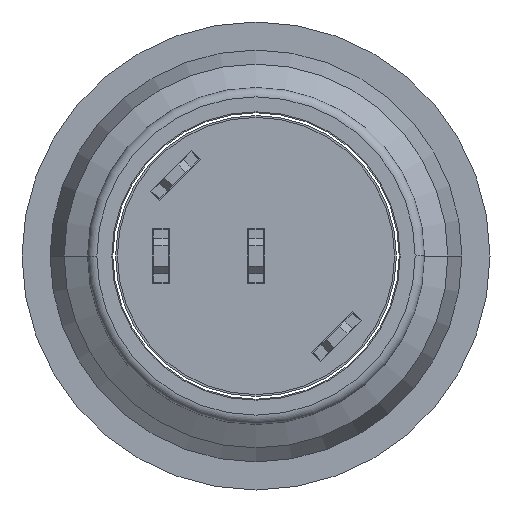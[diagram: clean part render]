
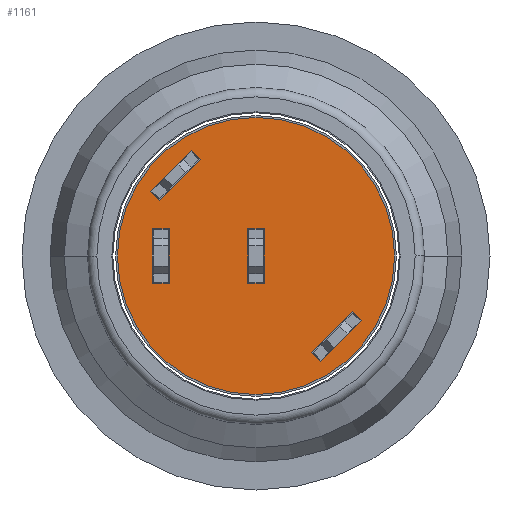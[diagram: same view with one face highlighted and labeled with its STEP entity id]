
A CAD part, front view. The second image highlights one B-rep face of the part: STEP entity #1161.
In plain terms, the highlighted planar face has unit normal (0, -1, 0).
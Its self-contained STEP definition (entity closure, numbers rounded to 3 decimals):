
#968=CARTESIAN_POINT('',(12.5,-15.98,-12.5));
#969=DIRECTION('',(0.,-1.,0.));
#970=DIRECTION('',(-1.,0.,0.));
#971=AXIS2_PLACEMENT_3D('',#968,#969,#970);
#973=CARTESIAN_POINT('',(12.5,-15.98,-12.5));
#974=DIRECTION('',(0.,1.,0.));
#975=DIRECTION('',(-1.,0.,0.));
#976=AXIS2_PLACEMENT_3D('',#973,#974,#975);
#978=DIRECTION('',(-0.707,0.,0.707));
#979=VECTOR('',#978,0.7);
#980=CARTESIAN_POINT('',(18.157,-15.98,-15.965));
#981=LINE('',#980,#979);
#982=DIRECTION('',(-0.707,0.,-0.707));
#983=VECTOR('',#982,3.1);
#984=CARTESIAN_POINT('',(17.662,-15.98,-15.47));
#985=LINE('',#984,#983);
#986=DIRECTION('',(0.707,0.,-0.707));
#987=VECTOR('',#986,0.7);
#988=CARTESIAN_POINT('',(15.47,-15.98,-17.662));
#989=LINE('',#988,#987);
#990=DIRECTION('',(0.707,0.,0.707));
#991=VECTOR('',#990,3.1);
#992=CARTESIAN_POINT('',(15.965,-15.98,-18.157));
#993=LINE('',#992,#991);
#994=DIRECTION('',(-0.707,0.,0.707));
#995=VECTOR('',#994,0.7);
#996=CARTESIAN_POINT('',(9.53,-15.98,-7.338));
#997=LINE('',#996,#995);
#998=DIRECTION('',(-0.707,0.,-0.707));
#999=VECTOR('',#998,3.1);
#1000=CARTESIAN_POINT('',(9.035,-15.98,-6.843));
#1001=LINE('',#1000,#999);
#1002=DIRECTION('',(0.707,0.,-0.707));
#1003=VECTOR('',#1002,0.7);
#1004=CARTESIAN_POINT('',(6.843,-15.98,-9.035));
#1005=LINE('',#1004,#1003);
#1006=DIRECTION('',(0.707,0.,0.707));
#1007=VECTOR('',#1006,3.1);
#1008=CARTESIAN_POINT('',(7.338,-15.98,-9.53));
#1009=LINE('',#1008,#1007);
#1010=DIRECTION('',(0.,0.,1.));
#1011=VECTOR('',#1010,2.9);
#1012=CARTESIAN_POINT('',(12.95,-15.98,-13.95));
#1013=LINE('',#1012,#1011);
#1014=DIRECTION('',(-1.,0.,0.));
#1015=VECTOR('',#1014,0.9);
#1016=CARTESIAN_POINT('',(12.95,-15.98,-11.05));
#1017=LINE('',#1016,#1015);
#1018=DIRECTION('',(0.,0.,-1.));
#1019=VECTOR('',#1018,2.9);
#1020=CARTESIAN_POINT('',(12.05,-15.98,-11.05));
#1021=LINE('',#1020,#1019);
#1022=DIRECTION('',(1.,0.,0.));
#1023=VECTOR('',#1022,0.9);
#1024=CARTESIAN_POINT('',(12.05,-15.98,-13.95));
#1025=LINE('',#1024,#1023);
#1026=DIRECTION('',(0.,0.,1.));
#1027=VECTOR('',#1026,2.9);
#1028=CARTESIAN_POINT('',(7.87,-15.98,-13.95));
#1029=LINE('',#1028,#1027);
#1030=DIRECTION('',(-1.,0.,0.));
#1031=VECTOR('',#1030,0.9);
#1032=CARTESIAN_POINT('',(7.87,-15.98,-11.05));
#1033=LINE('',#1032,#1031);
#1034=DIRECTION('',(0.,0.,-1.));
#1035=VECTOR('',#1034,2.9);
#1036=CARTESIAN_POINT('',(6.97,-15.98,-11.05));
#1037=LINE('',#1036,#1035);
#1038=DIRECTION('',(1.,0.,0.));
#1039=VECTOR('',#1038,0.9);
#1040=CARTESIAN_POINT('',(6.97,-15.98,-13.95));
#1041=LINE('',#1040,#1039);
#1043=CARTESIAN_POINT('',(5.1,-15.98,-12.5));
#1045=VERTEX_POINT('',#1043);
#1047=CARTESIAN_POINT('',(19.9,-15.98,-12.5));
#1049=VERTEX_POINT('',#1047);
#1050=CARTESIAN_POINT('',(17.662,-15.98,-15.47));
#1051=CARTESIAN_POINT('',(18.157,-15.98,-15.965));
#1052=VERTEX_POINT('',#1050);
#1053=VERTEX_POINT('',#1051);
#1054=CARTESIAN_POINT('',(15.47,-15.98,-17.662));
#1055=CARTESIAN_POINT('',(15.965,-15.98,-18.157));
#1056=VERTEX_POINT('',#1054);
#1057=VERTEX_POINT('',#1055);
#1058=CARTESIAN_POINT('',(9.53,-15.98,-7.338));
#1059=CARTESIAN_POINT('',(9.035,-15.98,-6.843));
#1060=VERTEX_POINT('',#1058);
#1061=VERTEX_POINT('',#1059);
#1062=CARTESIAN_POINT('',(7.338,-15.98,-9.53));
#1063=CARTESIAN_POINT('',(6.843,-15.98,-9.035));
#1064=VERTEX_POINT('',#1062);
#1065=VERTEX_POINT('',#1063);
#1066=CARTESIAN_POINT('',(12.95,-15.98,-11.05));
#1067=CARTESIAN_POINT('',(12.95,-15.98,-13.95));
#1068=VERTEX_POINT('',#1066);
#1069=VERTEX_POINT('',#1067);
#1070=CARTESIAN_POINT('',(12.05,-15.98,-13.95));
#1071=VERTEX_POINT('',#1070);
#1072=CARTESIAN_POINT('',(12.05,-15.98,-11.05));
#1073=VERTEX_POINT('',#1072);
#1074=CARTESIAN_POINT('',(7.87,-15.98,-11.05));
#1075=CARTESIAN_POINT('',(7.87,-15.98,-13.95));
#1076=VERTEX_POINT('',#1074);
#1077=VERTEX_POINT('',#1075);
#1078=CARTESIAN_POINT('',(6.97,-15.98,-13.95));
#1079=VERTEX_POINT('',#1078);
#1080=CARTESIAN_POINT('',(6.97,-15.98,-11.05));
#1081=VERTEX_POINT('',#1080);
#1112=CARTESIAN_POINT('',(12.5,-15.98,-12.5));
#1113=DIRECTION('',(0.,1.,0.));
#1114=DIRECTION('',(1.,0.,0.));
#1115=AXIS2_PLACEMENT_3D('',#1112,#1113,#1114);
#1116=PLANE('',#1115);
#1117=ORIENTED_EDGE('',*,*,#1104,.F.);
#1118=ORIENTED_EDGE('',*,*,#1093,.T.);
#1119=EDGE_LOOP('',(#1117,#1118));
#1120=FACE_OUTER_BOUND('',#1119,.F.);
#1122=ORIENTED_EDGE('',*,*,#1121,.T.);
#1124=ORIENTED_EDGE('',*,*,#1123,.T.);
#1126=ORIENTED_EDGE('',*,*,#1125,.T.);
#1128=ORIENTED_EDGE('',*,*,#1127,.T.);
#1129=EDGE_LOOP('',(#1122,#1124,#1126,#1128));
#1130=FACE_BOUND('',#1129,.F.);
#1132=ORIENTED_EDGE('',*,*,#1131,.T.);
#1134=ORIENTED_EDGE('',*,*,#1133,.T.);
#1136=ORIENTED_EDGE('',*,*,#1135,.T.);
#1138=ORIENTED_EDGE('',*,*,#1137,.T.);
#1139=EDGE_LOOP('',(#1132,#1134,#1136,#1138));
#1140=FACE_BOUND('',#1139,.F.);
#1142=ORIENTED_EDGE('',*,*,#1141,.T.);
#1144=ORIENTED_EDGE('',*,*,#1143,.T.);
#1146=ORIENTED_EDGE('',*,*,#1145,.T.);
#1148=ORIENTED_EDGE('',*,*,#1147,.T.);
#1149=EDGE_LOOP('',(#1142,#1144,#1146,#1148));
#1150=FACE_BOUND('',#1149,.F.);
#1152=ORIENTED_EDGE('',*,*,#1151,.T.);
#1154=ORIENTED_EDGE('',*,*,#1153,.T.);
#1156=ORIENTED_EDGE('',*,*,#1155,.T.);
#1158=ORIENTED_EDGE('',*,*,#1157,.T.);
#1159=EDGE_LOOP('',(#1152,#1154,#1156,#1158));
#1160=FACE_BOUND('',#1159,.F.);
#972=CIRCLE('',#971,7.4);
#977=CIRCLE('',#976,7.4);
#1093=EDGE_CURVE('',#1045,#1049,#977,.T.);
#1104=EDGE_CURVE('',#1045,#1049,#972,.T.);
#1121=EDGE_CURVE('',#1053,#1052,#981,.T.);
#1123=EDGE_CURVE('',#1052,#1056,#985,.T.);
#1125=EDGE_CURVE('',#1056,#1057,#989,.T.);
#1127=EDGE_CURVE('',#1057,#1053,#993,.T.);
#1131=EDGE_CURVE('',#1060,#1061,#997,.T.);
#1133=EDGE_CURVE('',#1061,#1065,#1001,.T.);
#1135=EDGE_CURVE('',#1065,#1064,#1005,.T.);
#1137=EDGE_CURVE('',#1064,#1060,#1009,.T.);
#1141=EDGE_CURVE('',#1069,#1068,#1013,.T.);
#1143=EDGE_CURVE('',#1068,#1073,#1017,.T.);
#1145=EDGE_CURVE('',#1073,#1071,#1021,.T.);
#1147=EDGE_CURVE('',#1071,#1069,#1025,.T.);
#1151=EDGE_CURVE('',#1077,#1076,#1029,.T.);
#1153=EDGE_CURVE('',#1076,#1081,#1033,.T.);
#1155=EDGE_CURVE('',#1081,#1079,#1037,.T.);
#1157=EDGE_CURVE('',#1079,#1077,#1041,.T.);
#1161=ADVANCED_FACE('',(#1120,#1130,#1140,#1150,#1160),#1116,.F.);
